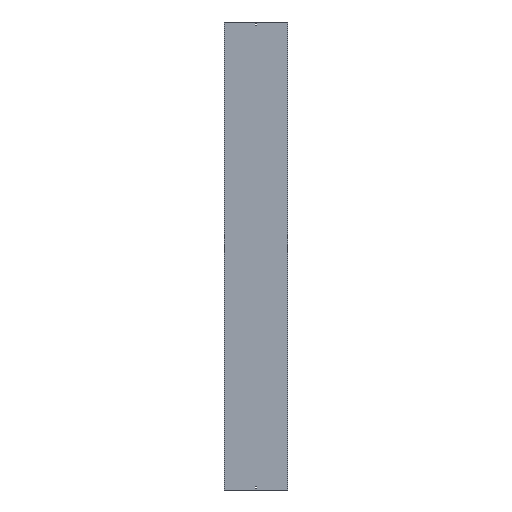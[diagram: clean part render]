
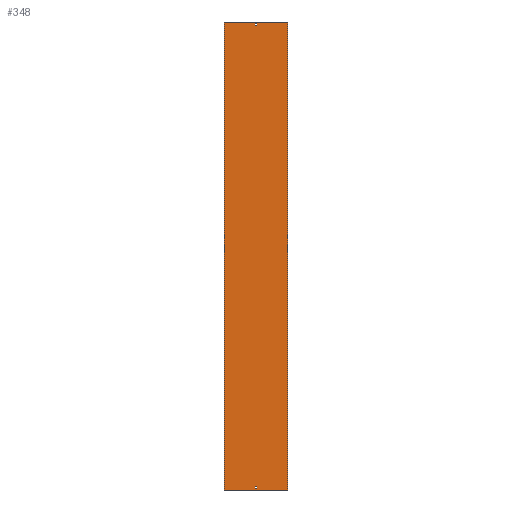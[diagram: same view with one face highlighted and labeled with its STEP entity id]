
A CAD part, front view. The second image highlights one B-rep face of the part: STEP entity #348.
In plain terms, the highlighted planar face has unit normal (0, -1, 0).
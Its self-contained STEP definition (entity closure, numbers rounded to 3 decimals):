
#18 = CARTESIAN_POINT ( 'NONE',  ( -203.5, -1.5, 1479. ) ) ;
#19 = ORIENTED_EDGE ( 'NONE', *, *, #301, .F. ) ;
#24 = CARTESIAN_POINT ( 'NONE',  ( 3.25, -1.5, 1500. ) ) ;
#31 = EDGE_CURVE ( 'NONE', #308, #470, #249, .T. ) ;
#43 = FACE_BOUND ( 'NONE', #390, .T. ) ;
#47 = CARTESIAN_POINT ( 'NONE',  ( -203.5, -1.5, -1500. ) ) ;
#48 = CARTESIAN_POINT ( 'NONE',  ( -203.5, -1.5, 1488. ) ) ;
#61 = LINE ( 'NONE', #18, #334 ) ;
#66 = CARTESIAN_POINT ( 'NONE',  ( 3.25, -1.5, 1500. ) ) ;
#78 = DIRECTION ( 'NONE',  ( -1., 0., 0. ) ) ;
#79 = ORIENTED_EDGE ( 'NONE', *, *, #142, .T. ) ;
#81 = CARTESIAN_POINT ( 'NONE',  ( 202., -1.5, 1500. ) ) ;
#84 = DIRECTION ( 'NONE',  ( 0., 0., -1. ) ) ;
#86 = EDGE_CURVE ( 'NONE', #153, #300, #456, .T. ) ;
#107 = LINE ( 'NONE', #194, #409 ) ;
#111 = AXIS2_PLACEMENT_3D ( 'NONE', #324, #406, #278 ) ;
#121 = CARTESIAN_POINT ( 'NONE',  ( 3.25, -1.5, 1479. ) ) ;
#125 = CARTESIAN_POINT ( 'NONE',  ( 3.25, -1.5, -1488. ) ) ;
#131 = VERTEX_POINT ( 'NONE', #373 ) ;
#133 = LINE ( 'NONE', #47, #241 ) ;
#142 = EDGE_CURVE ( 'NONE', #540, #326, #486, .T. ) ;
#143 = EDGE_CURVE ( 'NONE', #554, #491, #61, .T. ) ;
#146 = EDGE_CURVE ( 'NONE', #300, #554, #107, .T. ) ;
#147 = VECTOR ( 'NONE', #567, 1000. ) ;
#153 = VERTEX_POINT ( 'NONE', #386 ) ;
#164 = VERTEX_POINT ( 'NONE', #333 ) ;
#171 = LINE ( 'NONE', #279, #413 ) ;
#172 = EDGE_CURVE ( 'NONE', #491, #153, #524, .T. ) ;
#174 = VECTOR ( 'NONE', #332, 1000. ) ;
#194 = CARTESIAN_POINT ( 'NONE',  ( -3.25, -1.5, 1500. ) ) ;
#195 = DIRECTION ( 'NONE',  ( -1., 0., 0. ) ) ;
#203 = ORIENTED_EDGE ( 'NONE', *, *, #256, .F. ) ;
#204 = CARTESIAN_POINT ( 'NONE',  ( 202., -1.5, 1500. ) ) ;
#211 = VERTEX_POINT ( 'NONE', #204 ) ;
#213 = VERTEX_POINT ( 'NONE', #430 ) ;
#225 = CARTESIAN_POINT ( 'NONE',  ( -203.5, -1.5, 1500. ) ) ;
#226 = PLANE ( 'NONE',  #111 ) ;
#227 = EDGE_CURVE ( 'NONE', #131, #213, #521, .T. ) ;
#241 = VECTOR ( 'NONE', #410, 1000. ) ;
#249 = LINE ( 'NONE', #343, #319 ) ;
#255 = ORIENTED_EDGE ( 'NONE', *, *, #31, .T. ) ;
#256 = EDGE_CURVE ( 'NONE', #211, #164, #385, .T. ) ;
#274 = VECTOR ( 'NONE', #84, 1000. ) ;
#278 = DIRECTION ( 'NONE',  ( 0., 0., -1. ) ) ;
#279 = CARTESIAN_POINT ( 'NONE',  ( -3.25, -1.5, 1500. ) ) ;
#283 = VECTOR ( 'NONE', #78, 1000. ) ;
#289 = EDGE_LOOP ( 'NONE', ( #19, #203, #359, #79 ) ) ;
#300 = VERTEX_POINT ( 'NONE', #509 ) ;
#301 = EDGE_CURVE ( 'NONE', #164, #326, #133, .T. ) ;
#306 = LINE ( 'NONE', #225, #283 ) ;
#308 = VERTEX_POINT ( 'NONE', #125 ) ;
#319 = VECTOR ( 'NONE', #195, 1000. ) ;
#323 = CARTESIAN_POINT ( 'NONE',  ( -3.25, -1.5, -1488. ) ) ;
#324 = CARTESIAN_POINT ( 'NONE',  ( -203.5, -1.5, 1500. ) ) ;
#326 = VERTEX_POINT ( 'NONE', #512 ) ;
#328 = CARTESIAN_POINT ( 'NONE',  ( -3.25, -1.5, 1479. ) ) ;
#329 = FACE_BOUND ( 'NONE', #395, .T. ) ;
#332 = DIRECTION ( 'NONE',  ( 0., 0., -1. ) ) ;
#333 = CARTESIAN_POINT ( 'NONE',  ( 202., -1.5, -1500. ) ) ;
#334 = VECTOR ( 'NONE', #473, 1000. ) ;
#337 = DIRECTION ( 'NONE',  ( 1., 0., 0. ) ) ;
#343 = CARTESIAN_POINT ( 'NONE',  ( -203.5, -1.5, -1488. ) ) ;
#344 = CARTESIAN_POINT ( 'NONE',  ( -203.5, -1.5, -1479. ) ) ;
#348 = ADVANCED_FACE ( 'NONE', ( #329, #450, #43 ), #226, .T. ) ;
#353 = VECTOR ( 'NONE', #478, 1000. ) ;
#355 = EDGE_CURVE ( 'NONE', #470, #131, #171, .T. ) ;
#359 = ORIENTED_EDGE ( 'NONE', *, *, #514, .T. ) ;
#370 = ORIENTED_EDGE ( 'NONE', *, *, #227, .T. ) ;
#373 = CARTESIAN_POINT ( 'NONE',  ( -3.25, -1.5, -1479. ) ) ;
#382 = ORIENTED_EDGE ( 'NONE', *, *, #453, .T. ) ;
#385 = LINE ( 'NONE', #81, #274 ) ;
#386 = CARTESIAN_POINT ( 'NONE',  ( 3.25, -1.5, 1488. ) ) ;
#390 = EDGE_LOOP ( 'NONE', ( #255, #483, #370, #382 ) ) ;
#395 = EDGE_LOOP ( 'NONE', ( #560, #506, #566, #428 ) ) ;
#397 = LINE ( 'NONE', #24, #147 ) ;
#406 = DIRECTION ( 'NONE',  ( 0., -1., 0. ) ) ;
#409 = VECTOR ( 'NONE', #423, 1000. ) ;
#410 = DIRECTION ( 'NONE',  ( -1., 0., 0. ) ) ;
#413 = VECTOR ( 'NONE', #468, 1000. ) ;
#423 = DIRECTION ( 'NONE',  ( 0., 0., -1. ) ) ;
#428 = ORIENTED_EDGE ( 'NONE', *, *, #143, .F. ) ;
#430 = CARTESIAN_POINT ( 'NONE',  ( 3.25, -1.5, -1479. ) ) ;
#434 = VECTOR ( 'NONE', #591, 1000. ) ;
#445 = CARTESIAN_POINT ( 'NONE',  ( -202., -1.5, 1500. ) ) ;
#450 = FACE_OUTER_BOUND ( 'NONE', #289, .T. ) ;
#453 = EDGE_CURVE ( 'NONE', #213, #308, #397, .T. ) ;
#456 = LINE ( 'NONE', #48, #434 ) ;
#468 = DIRECTION ( 'NONE',  ( 0., 0., 1. ) ) ;
#469 = CARTESIAN_POINT ( 'NONE',  ( -202., -1.5, 1500. ) ) ;
#470 = VERTEX_POINT ( 'NONE', #323 ) ;
#473 = DIRECTION ( 'NONE',  ( 1., 0., 0. ) ) ;
#478 = DIRECTION ( 'NONE',  ( 0., 0., 1. ) ) ;
#483 = ORIENTED_EDGE ( 'NONE', *, *, #355, .T. ) ;
#486 = LINE ( 'NONE', #469, #174 ) ;
#491 = VERTEX_POINT ( 'NONE', #121 ) ;
#506 = ORIENTED_EDGE ( 'NONE', *, *, #86, .F. ) ;
#509 = CARTESIAN_POINT ( 'NONE',  ( -3.25, -1.5, 1488. ) ) ;
#512 = CARTESIAN_POINT ( 'NONE',  ( -202., -1.5, -1500. ) ) ;
#514 = EDGE_CURVE ( 'NONE', #211, #540, #306, .T. ) ;
#521 = LINE ( 'NONE', #344, #542 ) ;
#524 = LINE ( 'NONE', #66, #353 ) ;
#540 = VERTEX_POINT ( 'NONE', #445 ) ;
#542 = VECTOR ( 'NONE', #337, 1000. ) ;
#554 = VERTEX_POINT ( 'NONE', #328 ) ;
#560 = ORIENTED_EDGE ( 'NONE', *, *, #146, .F. ) ;
#566 = ORIENTED_EDGE ( 'NONE', *, *, #172, .F. ) ;
#567 = DIRECTION ( 'NONE',  ( 0., 0., -1. ) ) ;
#591 = DIRECTION ( 'NONE',  ( -1., 0., 0. ) ) ;
